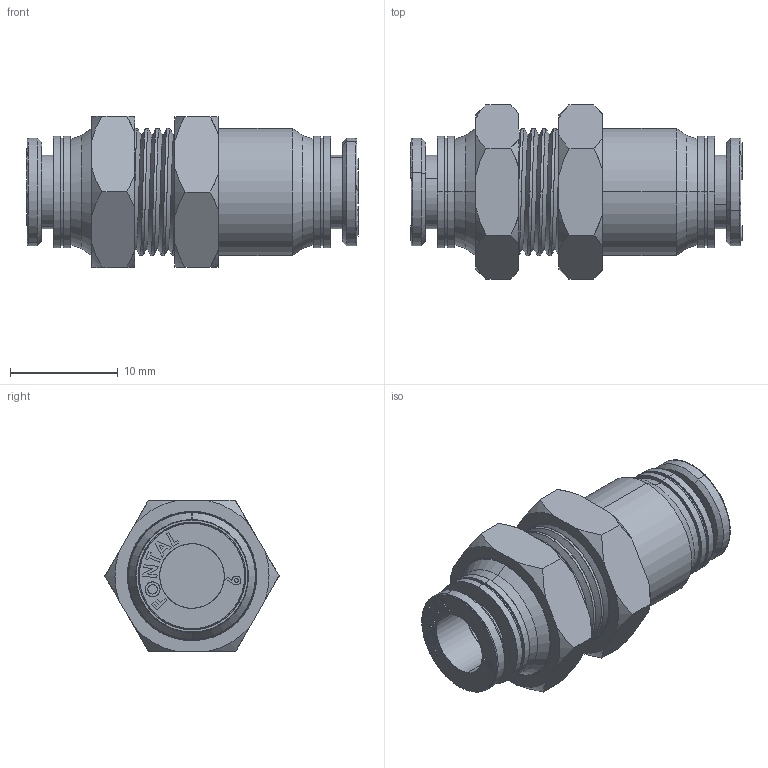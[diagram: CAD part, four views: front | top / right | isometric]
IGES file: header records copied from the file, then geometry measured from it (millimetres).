
Start section: SolidWorks IGES file using analytic representation for surfaces
Global section: file name: D:\Custom\3D繪製\ADDITIONAL\FPM\FPM6.IGS,1; native system: 5HSolidWorks 2014; preprocessor: SolidWorks 2014; author: Chieh_Lu; date: 160115.051346; units: millimetre
Bounding box: 30.84 x 16.17 x 14.04 mm (x, y, z)
Surface area: 3082.8 mm2 (no closed solid volume)
Topology: 0 solids, 0 shells, 284 faces, 3415 edges, 3415 vertices
Faces by surface type: bspline 195, revolution 89
